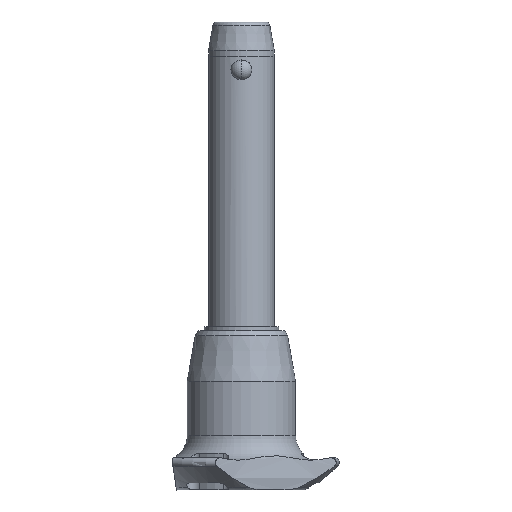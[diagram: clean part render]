
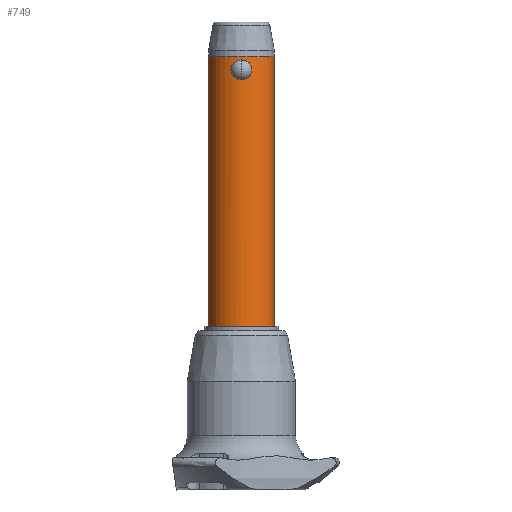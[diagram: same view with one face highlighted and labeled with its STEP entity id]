
A CAD part, front view. The second image highlights one B-rep face of the part: STEP entity #749.
In plain terms, the highlighted cylindrical face has radius 8 mm (diameter 16 mm), a partial arc.
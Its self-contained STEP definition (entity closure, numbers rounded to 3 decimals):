
#5 = CARTESIAN_POINT ( 'NONE',  ( -0.326, -7.995, 4.761 ) ) ;
#70 = B_SPLINE_CURVE_WITH_KNOTS ( 'NONE', 3,
 ( #2493, #1985, #1756, #2672, #2926, #2729, #1318, #1586, #898, #873, #846, #2039, #2909, #2028, #2454, #621, #400, #1305, #2476, #1079, #2508, #422, #2225, #222, #2951, #177, #1330, #438, #410, #2897 ),
 .UNSPECIFIED., .F., .F.,
 ( 4, 2, 2, 2, 2, 2, 2, 2, 2, 2, 2, 2, 2, 2, 4 ),
 ( 0.008, 0.009, 0.009, 0.01, 0.01, 0.011, 0.011, 0.012, 0.012, 0.013, 0.014, 0.014, 0.015, 0.015, 0.016 ),
 .UNSPECIFIED. ) ;
#130 = VERTEX_POINT ( 'NONE', #1401 ) ;
#144 = DIRECTION ( 'NONE',  ( 0., 0., 1. ) ) ;
#177 = CARTESIAN_POINT ( 'NONE',  ( 0.804, -7.961, 4.661 ) ) ;
#215 = CARTESIAN_POINT ( 'NONE',  ( -2.546, -7.584, 2.553 ) ) ;
#222 = CARTESIAN_POINT ( 'NONE',  ( 1.253, -7.903, 4.478 ) ) ;
#259 = VERTEX_POINT ( 'NONE', #1245 ) ;
#389 = VECTOR ( 'NONE', #1687, 1000. ) ;
#400 = CARTESIAN_POINT ( 'NONE',  ( 2.529, -7.59, 2.71 ) ) ;
#401 = EDGE_CURVE ( 'NONE', #994, #1987, #70, .T. ) ;
#407 = CARTESIAN_POINT ( 'NONE',  ( -0.164, -8., 4.775 ) ) ;
#410 = CARTESIAN_POINT ( 'NONE',  ( 0.164, -8., 4.775 ) ) ;
#418 = CARTESIAN_POINT ( 'NONE',  ( -1.896, -7.773, 4.001 ) ) ;
#422 = CARTESIAN_POINT ( 'NONE',  ( 1.66, -7.827, 4.215 ) ) ;
#431 = CARTESIAN_POINT ( 'NONE',  ( -2.459, -7.613, 3.036 ) ) ;
#438 = CARTESIAN_POINT ( 'NONE',  ( 0.326, -7.995, 4.761 ) ) ;
#457 = B_SPLINE_CURVE_WITH_KNOTS ( 'NONE', 3,
 ( #1563, #407, #5, #907, #1313, #2484, #673, #1551, #1075, #418, #1338, #1821, #880, #2708, #431, #1117, #215, #1325, #2471, #2736, #2233, #644, #2945, #868, #1993, #892, #1763, #1803, #2246, #1105 ),
 .UNSPECIFIED., .F., .F.,
 ( 4, 2, 2, 2, 2, 2, 2, 2, 2, 2, 2, 2, 2, 2, 4 ),
 ( 0., 0., 0.001, 0.001, 0.002, 0.002, 0.003, 0.003, 0.004, 0.004, 0.005, 0.006, 0.006, 0.007, 0.008 ),
 .UNSPECIFIED. ) ;
#491 = DIRECTION ( 'NONE',  ( 0., 0., 1. ) ) ;
#514 = EDGE_CURVE ( 'NONE', #1987, #994, #457, .T. ) ;
#540 = DIRECTION ( 'NONE',  ( 1., 0., 0. ) ) ;
#565 = VERTEX_POINT ( 'NONE', #2077 ) ;
#621 = CARTESIAN_POINT ( 'NONE',  ( 2.547, -7.584, 2.549 ) ) ;
#644 = CARTESIAN_POINT ( 'NONE',  ( -2.211, -7.69, 1.148 ) ) ;
#652 = EDGE_LOOP ( 'NONE', ( #1373, #1774, #2175, #863 ) ) ;
#659 = LINE ( 'NONE', #1119, #1142 ) ;
#673 = CARTESIAN_POINT ( 'NONE',  ( -1.252, -7.903, 4.479 ) ) ;
#700 = CARTESIAN_POINT ( 'NONE',  ( 0., 0., -60. ) ) ;
#749 = ADVANCED_FACE ( 'NONE', ( #1948, #2640 ), #2177, .T. ) ;
#778 = AXIS2_PLACEMENT_3D ( 'NONE', #1582, #491, #1131 ) ;
#804 = CARTESIAN_POINT ( 'NONE',  ( -8., 0., -60. ) ) ;
#846 = CARTESIAN_POINT ( 'NONE',  ( 2.275, -7.67, 1.291 ) ) ;
#863 = ORIENTED_EDGE ( 'NONE', *, *, #2719, .F. ) ;
#868 = CARTESIAN_POINT ( 'NONE',  ( -1.659, -7.827, 0.559 ) ) ;
#873 = CARTESIAN_POINT ( 'NONE',  ( 2.194, -7.694, 1.153 ) ) ;
#880 = CARTESIAN_POINT ( 'NONE',  ( -2.276, -7.67, 3.482 ) ) ;
#892 = CARTESIAN_POINT ( 'NONE',  ( -1.254, -7.902, 0.297 ) ) ;
#898 = CARTESIAN_POINT ( 'NONE',  ( 2.004, -7.746, 0.894 ) ) ;
#907 = CARTESIAN_POINT ( 'NONE',  ( -0.645, -7.976, 4.704 ) ) ;
#994 = VERTEX_POINT ( 'NONE', #2140 ) ;
#1011 = CIRCLE ( 'NONE', #2882, 8. ) ;
#1051 = CARTESIAN_POINT ( 'NONE',  ( 0., -8., 4.775 ) ) ;
#1055 = EDGE_CURVE ( 'NONE', #130, #259, #2847, .T. ) ;
#1075 = CARTESIAN_POINT ( 'NONE',  ( -1.658, -7.827, 4.216 ) ) ;
#1079 = CARTESIAN_POINT ( 'NONE',  ( 2.211, -7.69, 3.626 ) ) ;
#1105 = CARTESIAN_POINT ( 'NONE',  ( 0., -8., 0. ) ) ;
#1117 = CARTESIAN_POINT ( 'NONE',  ( -2.529, -7.59, 2.716 ) ) ;
#1119 = CARTESIAN_POINT ( 'NONE',  ( -8., 0., -60. ) ) ;
#1131 = DIRECTION ( 'NONE',  ( 1., 0., 0. ) ) ;
#1142 = VECTOR ( 'NONE', #2265, 1000. ) ;
#1245 = CARTESIAN_POINT ( 'NONE',  ( 8., 0., 5.6 ) ) ;
#1305 = CARTESIAN_POINT ( 'NONE',  ( 2.461, -7.612, 3.027 ) ) ;
#1313 = CARTESIAN_POINT ( 'NONE',  ( -0.803, -7.961, 4.661 ) ) ;
#1318 = CARTESIAN_POINT ( 'NONE',  ( 1.657, -7.827, 0.558 ) ) ;
#1325 = CARTESIAN_POINT ( 'NONE',  ( -2.547, -7.584, 2.229 ) ) ;
#1330 = CARTESIAN_POINT ( 'NONE',  ( 0.645, -7.976, 4.704 ) ) ;
#1338 = CARTESIAN_POINT ( 'NONE',  ( -2.003, -7.746, 3.882 ) ) ;
#1373 = ORIENTED_EDGE ( 'NONE', *, *, #1562, .F. ) ;
#1401 = CARTESIAN_POINT ( 'NONE',  ( 8., 0., -60. ) ) ;
#1484 = CIRCLE ( 'NONE', #778, 8. ) ;
#1551 = CARTESIAN_POINT ( 'NONE',  ( -1.527, -7.854, 4.313 ) ) ;
#1562 = EDGE_CURVE ( 'NONE', #2524, #565, #659, .T. ) ;
#1563 = CARTESIAN_POINT ( 'NONE',  ( 0., -8., 4.775 ) ) ;
#1582 = CARTESIAN_POINT ( 'NONE',  ( 0., 0., 5.6 ) ) ;
#1586 = CARTESIAN_POINT ( 'NONE',  ( 1.894, -7.773, 0.773 ) ) ;
#1671 = CARTESIAN_POINT ( 'NONE',  ( 0., 0., -60. ) ) ;
#1687 = DIRECTION ( 'NONE',  ( 0., 0., 1. ) ) ;
#1702 = CARTESIAN_POINT ( 'NONE',  ( 8., 0., -60. ) ) ;
#1756 = CARTESIAN_POINT ( 'NONE',  ( 0.652, -7.979, 0.058 ) ) ;
#1763 = CARTESIAN_POINT ( 'NONE',  ( -1.106, -7.925, 0.226 ) ) ;
#1774 = ORIENTED_EDGE ( 'NONE', *, *, #1788, .F. ) ;
#1778 = ORIENTED_EDGE ( 'NONE', *, *, #401, .F. ) ;
#1788 = EDGE_CURVE ( 'NONE', #130, #2524, #1011, .T. ) ;
#1800 = EDGE_LOOP ( 'NONE', ( #2292, #1778 ) ) ;
#1803 = CARTESIAN_POINT ( 'NONE',  ( -0.652, -7.979, 0.058 ) ) ;
#1821 = CARTESIAN_POINT ( 'NONE',  ( -2.193, -7.694, 3.623 ) ) ;
#1848 = DIRECTION ( 'NONE',  ( 0., 0., -1. ) ) ;
#1948 = FACE_OUTER_BOUND ( 'NONE', #652, .T. ) ;
#1962 = AXIS2_PLACEMENT_3D ( 'NONE', #1671, #144, #540 ) ;
#1985 = CARTESIAN_POINT ( 'NONE',  ( 0.324, -8., 0. ) ) ;
#1987 = VERTEX_POINT ( 'NONE', #1051 ) ;
#1993 = CARTESIAN_POINT ( 'NONE',  ( -1.53, -7.854, 0.464 ) ) ;
#2028 = CARTESIAN_POINT ( 'NONE',  ( 2.528, -7.59, 2.058 ) ) ;
#2039 = CARTESIAN_POINT ( 'NONE',  ( 2.408, -7.629, 1.586 ) ) ;
#2077 = CARTESIAN_POINT ( 'NONE',  ( -8., 0., 5.6 ) ) ;
#2140 = CARTESIAN_POINT ( 'NONE',  ( 0., -8., 0. ) ) ;
#2175 = ORIENTED_EDGE ( 'NONE', *, *, #1055, .T. ) ;
#2177 = CYLINDRICAL_SURFACE ( 'NONE', #1962, 8. ) ;
#2225 = CARTESIAN_POINT ( 'NONE',  ( 1.529, -7.854, 4.312 ) ) ;
#2233 = CARTESIAN_POINT ( 'NONE',  ( -2.411, -7.628, 1.592 ) ) ;
#2246 = CARTESIAN_POINT ( 'NONE',  ( -0.324, -8., 0. ) ) ;
#2265 = DIRECTION ( 'NONE',  ( 0., 0., 1. ) ) ;
#2292 = ORIENTED_EDGE ( 'NONE', *, *, #514, .F. ) ;
#2321 = DIRECTION ( 'NONE',  ( 1., 0., 0. ) ) ;
#2454 = CARTESIAN_POINT ( 'NONE',  ( 2.546, -7.584, 2.22 ) ) ;
#2471 = CARTESIAN_POINT ( 'NONE',  ( -2.529, -7.59, 2.064 ) ) ;
#2476 = CARTESIAN_POINT ( 'NONE',  ( 2.41, -7.629, 3.184 ) ) ;
#2484 = CARTESIAN_POINT ( 'NONE',  ( -1.107, -7.924, 4.548 ) ) ;
#2493 = CARTESIAN_POINT ( 'NONE',  ( 0., -8., 0. ) ) ;
#2508 = CARTESIAN_POINT ( 'NONE',  ( 2.016, -7.746, 3.891 ) ) ;
#2524 = VERTEX_POINT ( 'NONE', #804 ) ;
#2640 = FACE_BOUND ( 'NONE', #1800, .T. ) ;
#2672 = CARTESIAN_POINT ( 'NONE',  ( 1.105, -7.925, 0.226 ) ) ;
#2708 = CARTESIAN_POINT ( 'NONE',  ( -2.408, -7.629, 3.189 ) ) ;
#2719 = EDGE_CURVE ( 'NONE', #565, #259, #1484, .T. ) ;
#2729 = CARTESIAN_POINT ( 'NONE',  ( 1.529, -7.854, 0.463 ) ) ;
#2736 = CARTESIAN_POINT ( 'NONE',  ( -2.461, -7.612, 1.746 ) ) ;
#2847 = LINE ( 'NONE', #1702, #389 ) ;
#2882 = AXIS2_PLACEMENT_3D ( 'NONE', #700, #1848, #2321 ) ;
#2897 = CARTESIAN_POINT ( 'NONE',  ( 0., -8., 4.775 ) ) ;
#2909 = CARTESIAN_POINT ( 'NONE',  ( 2.46, -7.613, 1.742 ) ) ;
#2926 = CARTESIAN_POINT ( 'NONE',  ( 1.252, -7.903, 0.296 ) ) ;
#2945 = CARTESIAN_POINT ( 'NONE',  ( -2.016, -7.746, 0.883 ) ) ;
#2951 = CARTESIAN_POINT ( 'NONE',  ( 1.108, -7.924, 4.548 ) ) ;
